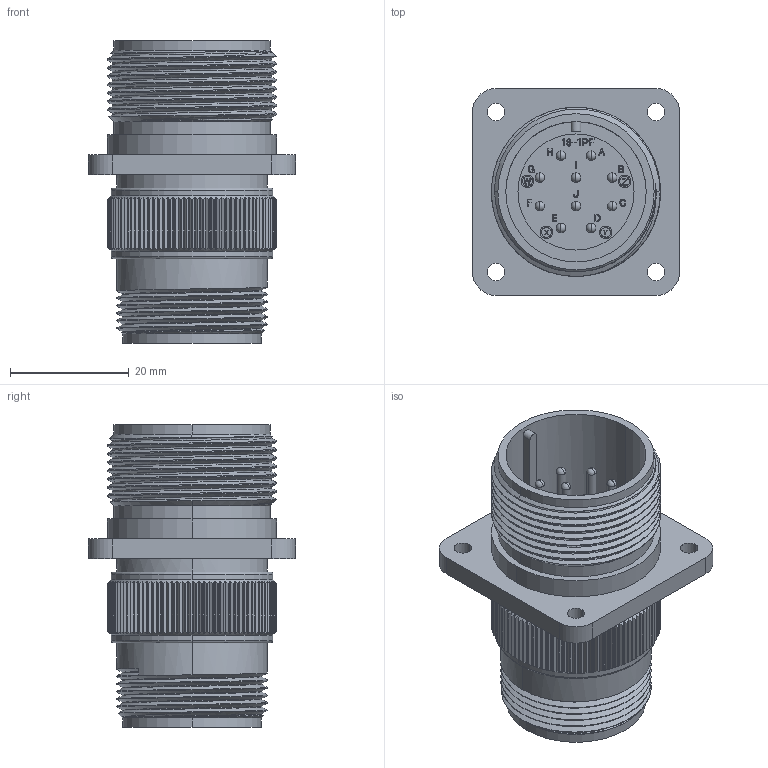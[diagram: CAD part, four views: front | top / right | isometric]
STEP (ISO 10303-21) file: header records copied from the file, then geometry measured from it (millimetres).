
FILE_DESCRIPTION (( 'STEP AP203' ), '1' );
FILE_NAME ('DMS3100A18-1P.STEP', '2017-07-10T01:30:14', ( '' ), ( '' ), 'SwSTEP 2.0', 'SolidWorks 2015', '' );
FILE_SCHEMA (( 'CONFIG_CONTROL_DESIGN' ));
Length unit declared in the file: millimetre
Products named in the file (1): DMS3100A18-1P
Bounding box: 34.92 x 34.92 x 51.06 mm (x, y, z)
Volume: 16419.7 mm3; surface area: 13841.7 mm2
Topology: 1 solids, 1 shells, 1703 faces, 4751 edges, 3109 vertices
Faces by surface type: plane 691, cylinder 658, bspline 292, cone 38, sphere 20, torus 4
Entity records: 71364 total; most frequent: CARTESIAN_POINT 31748, ORIENTED_EDGE 9422, DIRECTION 6307, EDGE_CURVE 4711, VERTEX_POINT 3109, LINE 2363, VECTOR 2363, AXIS2_PLACEMENT_3D 1972
